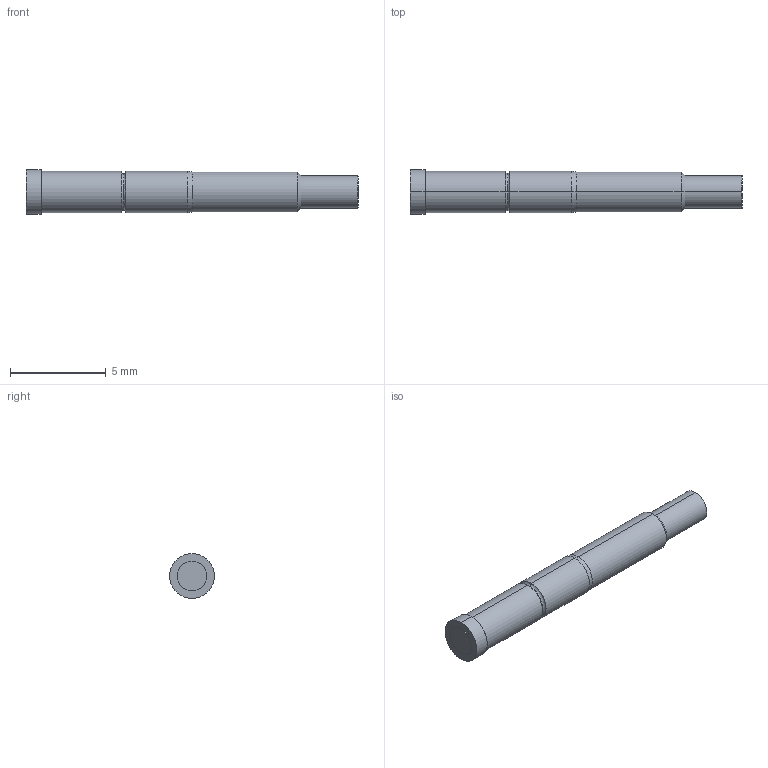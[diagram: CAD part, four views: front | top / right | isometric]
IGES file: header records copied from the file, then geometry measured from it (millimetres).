
Start section: SolidWorks IGES file using analytic representation for surfaces
Global section: file name: O:\PYLON\IGES FILES\G-S\G-S-F FULL.IGS; native system: SolidWorks 2015; preprocessor: SolidWorks 2015; author: kgolden; date: 171024.094606; units: inch
Bounding box: 17.3 x 2.34 x 2.34 mm (x, y, z)
Surface area: 133.2 mm2 (no closed solid volume)
Topology: 0 solids, 0 shells, 27 faces, 264 edges, 264 vertices
Faces by surface type: revolution 18, bspline 9
